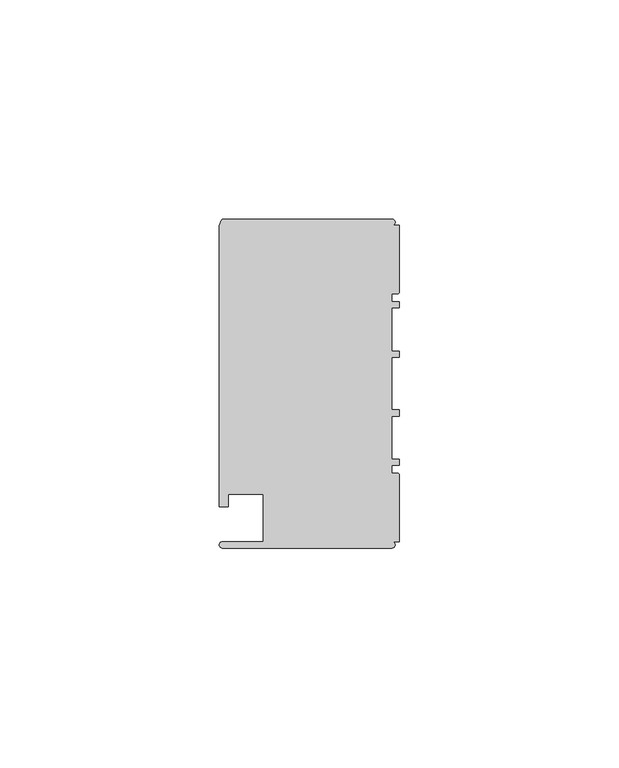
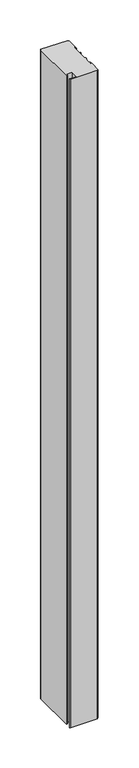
"""IFC4 building model written with IfcOpenShell, lengths in millimetres: member geometry, Прямоугольный импост : 1-AMG-1-Профиль 40Х75 Низ Л."""

import ifcopenshell
import ifcopenshell.guid

model = None  # the IFC model being written
_history = None  # IfcOwnerHistory: only IFC2X3 demands one
_inside = {}  # id of a spatial element -> (the spatial element, [elements in it])
_under = {}  # id of a project, library or spatial element -> (it, [spatial elements below it])
_declared = {}  # id of a project -> (the project, [libraries it declares])
_typed = {}  # id of a type object -> (the type object, [elements of that type])
_made_of = {}  # id of a material, layer set ... -> (it, [elements and type objects made of it])


def new_model(schema):
    """Start an empty IFC model of exactly this schema.

    Asked for "IFC4X3", IfcOpenShell would pick the latest addendum, in which some entities
    have other attributes; the version numbers below select the first issue.
    IFC2X3 requires an IfcOwnerHistory on every rooted entity: one is made here for all.
    """
    global model, _history
    if schema == "IFC4X3":
        model = ifcopenshell.file(schema_version=(4, 3, 0, 0))
    else:
        model = ifcopenshell.file(schema=schema)
    _inside.clear()
    _under.clear()
    _declared.clear()
    _typed.clear()
    _made_of.clear()
    _history = None
    if model.schema == "IFC2X3":
        org = make("IfcOrganization", Name="unknown")
        user = make(
            "IfcPersonAndOrganization",
            ThePerson=make("IfcPerson", FamilyName="unknown"),
            TheOrganization=org,
        )
        app = make(
            "IfcApplication",
            ApplicationDeveloper=org,
            Version="unknown",
            ApplicationFullName="unknown",
            ApplicationIdentifier="unknown",
        )
        _history = make(
            "IfcOwnerHistory",
            OwningUser=user,
            OwningApplication=app,
            ChangeAction="ADDED",
            CreationDate=0,
        )
    return model


def make(cls, **values):
    """One entity of the class cls with the attributes given. An attribute that is None is left unset."""
    return model.create_entity(
        cls, **{name: value for name, value in values.items() if value is not None}
    )


def rooted(cls, **values):
    """An entity with a GlobalId (a new one), such as an element, a storey or a relation."""
    return make(cls, GlobalId=ifcopenshell.guid.new(), OwnerHistory=_history, **values)


def si_unit(unit_type, name, prefix=None):
    """IfcSIUnit, for example si_unit("LENGTHUNIT", "METRE", prefix="MILLI")."""
    return make("IfcSIUnit", UnitType=unit_type, Prefix=prefix, Name=name)


def assignment(units):
    """IfcUnitAssignment: the units of a project."""
    return None if units is None else make("IfcUnitAssignment", Units=units)


def point(xyz):
    """IfcCartesianPoint."""
    return None if xyz is None else make("IfcCartesianPoint", Coordinates=xyz)


def direction(xyz):
    """IfcDirection."""
    return None if xyz is None else make("IfcDirection", DirectionRatios=xyz)


def frame(location, z_axis=None, x_axis=None):
    """IfcAxis2Placement3D, a coordinate frame: its origin and axes. An axis left out is left unset."""
    return make(
        "IfcAxis2Placement3D",
        Location=point(location),
        Axis=direction(z_axis),
        RefDirection=direction(x_axis),
    )


def frame_2d(location, x_axis=None):
    """IfcAxis2Placement2D, a coordinate frame in the plane: its origin and x axis."""
    return make(
        "IfcAxis2Placement2D", Location=point(location), RefDirection=direction(x_axis)
    )


def origin():
    """The frame at (0, 0, 0) with its axes left unset."""
    return frame((0.0, 0.0, 0.0))


def place(relative_to, where):
    """IfcLocalPlacement: puts the frame where relative to a parent placement (None: the world)."""
    return make(
        "IfcLocalPlacement", PlacementRelTo=relative_to, RelativePlacement=where
    )


def context(
    kind, dimensions, precision=None, world=None, true_north=None, identifier=None
):
    """IfcGeometricRepresentationContext, for example the 3D "Model" context."""
    return make(
        "IfcGeometricRepresentationContext",
        ContextIdentifier=identifier,
        ContextType=kind,
        CoordinateSpaceDimension=dimensions,
        Precision=precision,
        WorldCoordinateSystem=world,
        TrueNorth=true_north,
    )


def project(units=None, contexts=None):
    """IfcProject with its units and contexts."""
    return rooted(
        "IfcProject",
        Name="project",
        RepresentationContexts=contexts,
        UnitsInContext=assignment(units),
    )


def spatial(cls, under=None, at=None, **own):
    """A site, building, storey or space (cls), placed at a placement, below another one or the project."""
    s = rooted(cls, ObjectPlacement=at, **own)
    if under is not None:
        _under.setdefault(under.id(), (under, []))[1].append(s)
    return s


def polyline(points):
    """IfcPolyline through the points."""
    return make("IfcPolyline", Points=[point(p) for p in points])


def circle_curve(where, radius):
    """IfcCircle in the frame where."""
    return make("IfcCircle", Position=where, Radius=radius)


def trimmed(basis, trim1, trim2, sense, master):
    """IfcTrimmedCurve: the piece of a basis curve between two trims."""
    return make(
        "IfcTrimmedCurve",
        BasisCurve=basis,
        Trim1=trim1,
        Trim2=trim2,
        SenseAgreement=sense,
        MasterRepresentation=master,
    )


def segment(curve, same_sense, transition):
    """IfcCompositeCurveSegment."""
    return make(
        "IfcCompositeCurveSegment",
        Transition=transition,
        SameSense=same_sense,
        ParentCurve=curve,
    )


def composite_curve(segments, self_intersect=None):
    """IfcCompositeCurve: segments joined end to end."""
    return make("IfcCompositeCurve", Segments=segments, SelfIntersect=self_intersect)


def outline(outer, holes=None, kind="AREA"):
    """IfcArbitraryClosedProfileDef: a profile drawn as a closed curve; with holes, ...WithVoids."""
    if holes is None:
        return make("IfcArbitraryClosedProfileDef", ProfileType=kind, OuterCurve=outer)
    return make(
        "IfcArbitraryProfileDefWithVoids",
        ProfileType=kind,
        OuterCurve=outer,
        InnerCurves=holes,
    )


def extrude(swept, where, along, depth):
    """IfcExtrudedAreaSolid: the profile swept, set in the frame where, extruded along a direction by depth."""
    return make(
        "IfcExtrudedAreaSolid",
        SweptArea=swept,
        Position=where,
        ExtrudedDirection=direction(along),
        Depth=depth,
    )


def shape(context_of_items, identifier, shape_type, items):
    """IfcShapeRepresentation: the items that make up one representation, for example the "Body"."""
    return make(
        "IfcShapeRepresentation",
        ContextOfItems=context_of_items,
        RepresentationIdentifier=identifier,
        RepresentationType=shape_type,
        Items=items,
    )


def source(mapping_origin, context_of_items, identifier, shape_type, items):
    """IfcRepresentationMap: a shape defined once, which mapped items show again and again."""
    return make(
        "IfcRepresentationMap",
        MappingOrigin=mapping_origin,
        MappedRepresentation=shape(context_of_items, identifier, shape_type, items),
    )


def transform(
    local_origin,
    x_axis=None,
    y_axis=None,
    z_axis=None,
    scale=None,
    scale2=None,
    scale3=None,
    uniform=True,
):
    """IfcCartesianTransformationOperator3D, or its non-uniform kind. x_axis, y_axis, z_axis: its Axis1, 2, 3."""
    if uniform:
        return make(
            "IfcCartesianTransformationOperator3D",
            Axis1=direction(x_axis),
            Axis2=direction(y_axis),
            LocalOrigin=point(local_origin),
            Scale=scale,
            Axis3=direction(z_axis),
        )
    return make(
        "IfcCartesianTransformationOperator3DnonUniform",
        Axis1=direction(x_axis),
        Axis2=direction(y_axis),
        LocalOrigin=point(local_origin),
        Scale=scale,
        Axis3=direction(z_axis),
        Scale2=scale2,
        Scale3=scale3,
    )


def mapped(mapping_source, mapping_target):
    """IfcMappedItem: shows the shape of a source again, moved by a transform."""
    return make(
        "IfcMappedItem", MappingSource=mapping_source, MappingTarget=mapping_target
    )


def made_of(thing, what):
    """Note that an element or type object is made of a material, layer set ...; save() writes the relation."""
    if what is not None:
        _made_of.setdefault(what.id(), (what, []))[1].append(thing)
    return thing


def element(
    cls,
    number,
    at=None,
    inside=None,
    cuts=None,
    type_object=None,
    material=None,
    context=None,
    identifier="Body",
    shape_type=None,
    held_by="IfcProductDefinitionShape",
    body=None,
    shapes=None,
    **own,
):
    """One element of the class cls, such as IfcWall. Its Tag is "e" and its number.

    at: its placement. inside: the storey or other place that contains it. cuts: it is an
    opening in that element (IfcRelVoidsElement). A single representation is given by context,
    identifier, shape_type and body (its items); several are given by shapes. held_by: the class
    of the entity that holds the representations. save() writes the other relations.
    """
    e = rooted(cls, Tag="e%d" % number, ObjectPlacement=at, **own)
    if body is not None:
        shapes = [shape(context, identifier, shape_type, body)]
    if shapes is not None:
        e.Representation = make(held_by, Representations=shapes)
    if inside is not None:
        _inside.setdefault(inside.id(), (inside, []))[1].append(e)
    if cuts is not None:
        rooted(
            "IfcRelVoidsElement", RelatingBuildingElement=cuts, RelatedOpeningElement=e
        )
    if type_object is not None:
        _typed.setdefault(type_object.id(), (type_object, []))[1].append(e)
    return made_of(e, material)


def aggregate(whole, parts):
    """IfcRelAggregates: a whole, such as a stair, and the parts it consists of."""
    return rooted("IfcRelAggregates", RelatingObject=whole, RelatedObjects=parts)


def save(model, path):
    """Write the relations noted so far, then the file.

    IfcRelAggregates (storeys below a building ...), IfcRelContainedInSpatialStructure (elements
    in a storey), IfcRelDefinesByType, IfcRelAssociatesMaterial and IfcRelDeclares: one each for
    every whole, place, type object, material and project.
    """
    for whole, parts in _under.values():
        aggregate(whole, parts)
    for where, things in _inside.values():
        rooted(
            "IfcRelContainedInSpatialStructure",
            RelatedElements=things,
            RelatingStructure=where,
        )
    for kind, things in _typed.values():
        rooted("IfcRelDefinesByType", RelatedObjects=things, RelatingType=kind)
    for what, things in _made_of.values():
        rooted("IfcRelAssociatesMaterial", RelatedObjects=things, RelatingMaterial=what)
    for by, libraries in _declared.values():
        rooted("IfcRelDeclares", RelatingContext=by, RelatedDefinitions=libraries)
    model.write(path)


def member_bda99291(model_context):
    return source(origin(), model_context, "Body", "SweptSolid", [
        extrude(outline(composite_curve([segment(polyline([(-1.7, -37.5), (-40.4, -37.5)]), True, "CONTINUOUS"), segment(trimmed(circle_curve(frame_2d((-40.4, -36.8)), 0.7), [point((-40.4, -37.5))], [point((-40.4, -36.1))], False, "CARTESIAN"), True, "CONTINUOUS"), segment(polyline([(-40.4, -36.1), (-31.0, -36.1), (-31.0, -25.25), (-39.0, -25.25), (-39.0, -28.1), (-41.1, -28.1), (-41.1, 35.6)]), True, "CONTINUOUS"), segment(trimmed(circle_curve(frame_2d((-38.1714286, 35.6)), 2.9285714), [point((-41.1, 35.6))], [point((-40.4, 37.5))], False, "CARTESIAN"), True, "CONTINUOUS"), segment(polyline([(-40.4, 37.5), (-1.7, 37.5)]), True, "CONTINUOUS"), segment(trimmed(circle_curve(frame_2d((-1.7, 36.8)), 0.7), [point((-1.7, 37.5))], [point((-1.7, 36.1))], False, "CARTESIAN"), True, "CONTINUOUS"), segment(polyline([(-1.7, 36.1), (0.0, 36.1), (0.0, 20.95)]), True, "CONTINUOUS"), segment(trimmed(circle_curve(frame_2d((-0.5, 20.95)), 0.5), [point((0.0, 20.95))], [point((-0.5, 20.45))], False, "CARTESIAN"), True, "CONTINUOUS"), segment(polyline([(-0.5, 20.45), (-1.8, 20.45), (-1.8, 18.65), (0.0, 18.65), (0.0, 17.25), (-1.8, 17.25), (-1.8, 7.4), (0.0, 7.4), (0.0, 6.0), (-1.8, 6.0), (-1.8, -6.0), (0.0, -6.0), (0.0, -7.4), (-1.8, -7.4), (-1.8, -17.25), (0.0, -17.25), (0.0, -18.65), (-1.8, -18.65), (-1.8, -20.45), (-0.5, -20.45)]), True, "CONTINUOUS"), segment(trimmed(circle_curve(frame_2d((-0.5, -20.95)), 0.5), [point((-0.5, -20.45))], [point((0.0, -20.95))], False, "CARTESIAN"), True, "CONTINUOUS"), segment(polyline([(0.0, -20.95), (0.0, -36.1), (-1.7, -36.1)]), True, "CONTINUOUS"), segment(trimmed(circle_curve(frame_2d((-1.7, -36.8)), 0.7), [point((-1.7, -36.1))], [point((-1.7, -37.5))], False, "CARTESIAN"), True, "CONTINUOUS")], self_intersect=False)), frame((0.0, 0.0, -985.3748476), z_axis=(0.0, 0.0, 1.0), x_axis=(1.0, 0.0, 0.0)), (0.0, 0.0, 1.0), 985.3748476),
    ])


if __name__ == "__main__":
    model = new_model("IFC4")
    model_context = context("Model", 3, world=origin())
    ifc_project = project(units=[si_unit("LENGTHUNIT", "METRE", prefix="MILLI")], contexts=[model_context])
    site = spatial("IfcSite", under=ifc_project)
    building = spatial("IfcBuilding", under=site)
    placement = place(None, origin())
    member_shape = member_bda99291(model_context)
    element("IfcMember", 1, ObjectType="Прямоугольный импост : 1-AMG-1-Профиль 40Х75 Низ Л", at=placement, inside=building, context=model_context, shape_type="MappedRepresentation", body=[
        mapped(member_shape, transform((0.0, 0.0, 0.0), x_axis=(1.0, 0.0, 0.0), y_axis=(0.0, 1.0, 0.0), z_axis=(0.0, 0.0, 1.0))),
    ])
    save(model, "model.ifc")
